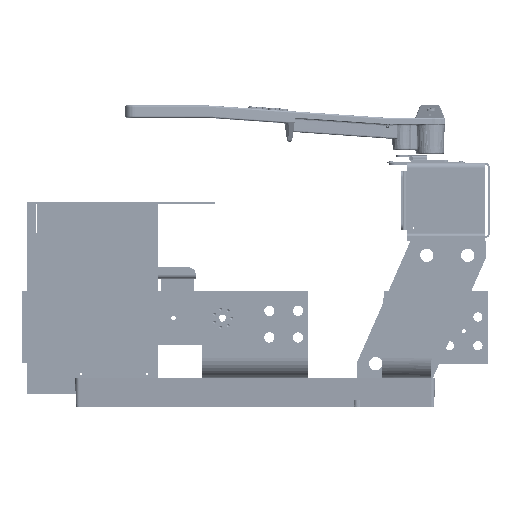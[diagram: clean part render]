
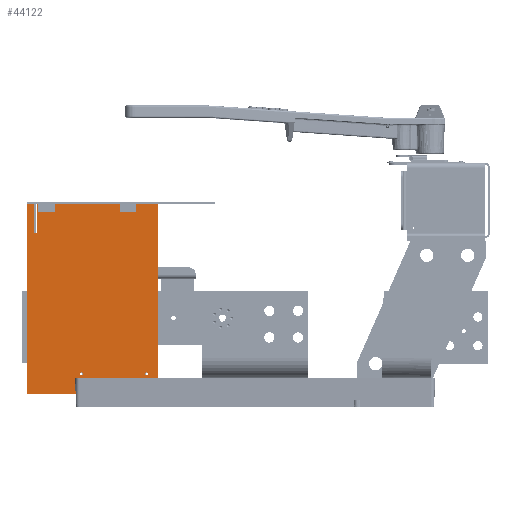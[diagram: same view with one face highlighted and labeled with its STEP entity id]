
A CAD part, left-side view. The second image highlights one B-rep face of the part: STEP entity #44122.
In plain terms, the highlighted planar face has unit normal (-1, 0, 0) as drawn and (0, 0, -1) by its records, which use the part's own axes.
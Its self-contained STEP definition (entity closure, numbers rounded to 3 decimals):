
#2180=FACE_BOUND('',#9753,.T.);
#2181=FACE_BOUND('',#9754,.T.);
#2182=FACE_BOUND('',#9755,.T.);
#2183=FACE_BOUND('',#9756,.T.);
#3931=CIRCLE('',#49044,0.097);
#3933=CIRCLE('',#49047,0.097);
#3935=CIRCLE('',#49050,0.097);
#3937=CIRCLE('',#49053,0.097);
#6780=FACE_OUTER_BOUND('',#9752,.T.);
#9752=EDGE_LOOP('',(#37422,#37423,#37424,#37425,#37426,#37427,#37428,#37429,
#37430,#37431,#37432,#37433));
#9753=EDGE_LOOP('',(#37434));
#9754=EDGE_LOOP('',(#37435));
#9755=EDGE_LOOP('',(#37436));
#9756=EDGE_LOOP('',(#37437));
#13272=LINE('',#72893,#16989);
#13276=LINE('',#72901,#16993);
#13279=LINE('',#72907,#16996);
#13282=LINE('',#72913,#16999);
#13285=LINE('',#72919,#17002);
#13288=LINE('',#72925,#17005);
#13291=LINE('',#72931,#17008);
#13294=LINE('',#72937,#17011);
#13297=LINE('',#72943,#17014);
#13300=LINE('',#72949,#17017);
#13303=LINE('',#72955,#17020);
#13306=LINE('',#72960,#17023);
#16989=VECTOR('',#59800,0.394);
#16993=VECTOR('',#59806,0.394);
#16996=VECTOR('',#59811,0.394);
#16999=VECTOR('',#59816,0.394);
#17002=VECTOR('',#59821,0.394);
#17005=VECTOR('',#59826,0.394);
#17008=VECTOR('',#59831,0.394);
#17011=VECTOR('',#59836,0.394);
#17014=VECTOR('',#59841,0.394);
#17017=VECTOR('',#59846,0.394);
#17020=VECTOR('',#59851,0.394);
#17023=VECTOR('',#59856,0.394);
#20937=VERTEX_POINT('',#72867);
#20939=VERTEX_POINT('',#72873);
#20941=VERTEX_POINT('',#72879);
#20943=VERTEX_POINT('',#72885);
#20945=VERTEX_POINT('',#72891);
#20946=VERTEX_POINT('',#72892);
#20949=VERTEX_POINT('',#72900);
#20951=VERTEX_POINT('',#72906);
#20953=VERTEX_POINT('',#72912);
#20955=VERTEX_POINT('',#72918);
#20957=VERTEX_POINT('',#72924);
#20959=VERTEX_POINT('',#72930);
#20961=VERTEX_POINT('',#72936);
#20963=VERTEX_POINT('',#72942);
#20965=VERTEX_POINT('',#72948);
#20967=VERTEX_POINT('',#72954);
#26592=EDGE_CURVE('',#20937,#20937,#3931,.T.);
#26595=EDGE_CURVE('',#20939,#20939,#3933,.T.);
#26598=EDGE_CURVE('',#20941,#20941,#3935,.T.);
#26601=EDGE_CURVE('',#20943,#20943,#3937,.T.);
#26604=EDGE_CURVE('',#20945,#20946,#13272,.T.);
#26608=EDGE_CURVE('',#20949,#20945,#13276,.T.);
#26611=EDGE_CURVE('',#20951,#20949,#13279,.T.);
#26614=EDGE_CURVE('',#20953,#20951,#13282,.T.);
#26617=EDGE_CURVE('',#20955,#20953,#13285,.T.);
#26620=EDGE_CURVE('',#20957,#20955,#13288,.T.);
#26623=EDGE_CURVE('',#20959,#20957,#13291,.T.);
#26626=EDGE_CURVE('',#20961,#20959,#13294,.T.);
#26629=EDGE_CURVE('',#20963,#20961,#13297,.T.);
#26632=EDGE_CURVE('',#20965,#20963,#13300,.T.);
#26635=EDGE_CURVE('',#20967,#20965,#13303,.T.);
#26638=EDGE_CURVE('',#20946,#20967,#13306,.T.);
#37422=ORIENTED_EDGE('',*,*,#26638,.F.);
#37423=ORIENTED_EDGE('',*,*,#26604,.F.);
#37424=ORIENTED_EDGE('',*,*,#26608,.F.);
#37425=ORIENTED_EDGE('',*,*,#26611,.F.);
#37426=ORIENTED_EDGE('',*,*,#26614,.F.);
#37427=ORIENTED_EDGE('',*,*,#26617,.F.);
#37428=ORIENTED_EDGE('',*,*,#26620,.F.);
#37429=ORIENTED_EDGE('',*,*,#26623,.F.);
#37430=ORIENTED_EDGE('',*,*,#26626,.F.);
#37431=ORIENTED_EDGE('',*,*,#26629,.F.);
#37432=ORIENTED_EDGE('',*,*,#26632,.F.);
#37433=ORIENTED_EDGE('',*,*,#26635,.F.);
#37434=ORIENTED_EDGE('',*,*,#26592,.T.);
#37435=ORIENTED_EDGE('',*,*,#26595,.T.);
#37436=ORIENTED_EDGE('',*,*,#26598,.T.);
#37437=ORIENTED_EDGE('',*,*,#26601,.T.);
#42087=PLANE('',#49068);
#44122=ADVANCED_FACE('',(#6780,#2180,#2181,#2182,#2183),#42087,.F.);
#49044=AXIS2_PLACEMENT_3D('',#72868,#59772,#59773);
#49047=AXIS2_PLACEMENT_3D('',#72874,#59779,#59780);
#49050=AXIS2_PLACEMENT_3D('',#72880,#59786,#59787);
#49053=AXIS2_PLACEMENT_3D('',#72886,#59793,#59794);
#49068=AXIS2_PLACEMENT_3D('',#72963,#59860,#59861);
#59772=DIRECTION('center_axis',(0.,0.,1.));
#59773=DIRECTION('ref_axis',(-1.,0.,0.));
#59779=DIRECTION('center_axis',(0.,0.,1.));
#59780=DIRECTION('ref_axis',(-1.,0.,0.));
#59786=DIRECTION('center_axis',(0.,0.,1.));
#59787=DIRECTION('ref_axis',(-1.,0.,0.));
#59793=DIRECTION('center_axis',(0.,0.,1.));
#59794=DIRECTION('ref_axis',(-1.,0.,0.));
#59800=DIRECTION('',(1.,0.,0.));
#59806=DIRECTION('',(0.,1.,0.));
#59811=DIRECTION('',(1.,0.,0.));
#59816=DIRECTION('',(0.,-1.,0.));
#59821=DIRECTION('',(-1.,0.,0.));
#59826=DIRECTION('',(0.,-1.,0.));
#59831=DIRECTION('',(1.,0.,0.));
#59836=DIRECTION('',(0.,-1.,0.));
#59841=DIRECTION('',(-1.,0.,0.));
#59846=DIRECTION('',(0.,1.,0.));
#59851=DIRECTION('',(1.,0.,0.));
#59856=DIRECTION('',(0.,-1.,0.));
#59860=DIRECTION('center_axis',(0.,0.,1.));
#59861=DIRECTION('ref_axis',(1.,0.,0.));
#72867=CARTESIAN_POINT('',(0.347,2.,0.));
#72868=CARTESIAN_POINT('Origin',(0.25,2.,0.));
#72873=CARTESIAN_POINT('',(0.347,7.,0.));
#72874=CARTESIAN_POINT('Origin',(0.25,7.,0.));
#72879=CARTESIAN_POINT('',(10.472,0.688,0.));
#72880=CARTESIAN_POINT('Origin',(10.375,0.688,0.));
#72885=CARTESIAN_POINT('',(10.472,4.688,0.));
#72886=CARTESIAN_POINT('Origin',(10.375,4.688,0.));
#72891=CARTESIAN_POINT('',(10.625,5.094,0.));
#72892=CARTESIAN_POINT('',(11.156,5.094,0.));
#72893=CARTESIAN_POINT('',(10.625,5.094,0.));
#72900=CARTESIAN_POINT('',(10.625,0.,0.));
#72901=CARTESIAN_POINT('',(10.625,0.,0.));
#72906=CARTESIAN_POINT('',(0.,0.,0.));
#72907=CARTESIAN_POINT('',(0.,0.,0.));
#72912=CARTESIAN_POINT('',(0.,7.422,0.));
#72913=CARTESIAN_POINT('',(0.,7.422,0.));
#72918=CARTESIAN_POINT('',(1.75,7.422,0.));
#72919=CARTESIAN_POINT('',(1.75,7.422,0.));
#72924=CARTESIAN_POINT('',(1.75,7.578,0.));
#72925=CARTESIAN_POINT('',(1.75,7.578,0.));
#72930=CARTESIAN_POINT('',(0.,7.578,0.));
#72931=CARTESIAN_POINT('',(0.,7.578,0.));
#72936=CARTESIAN_POINT('',(0.,8.,0.));
#72937=CARTESIAN_POINT('',(0.,8.,0.));
#72942=CARTESIAN_POINT('',(11.625,8.,0.));
#72943=CARTESIAN_POINT('',(11.625,8.,0.));
#72948=CARTESIAN_POINT('',(11.625,4.719,0.));
#72949=CARTESIAN_POINT('',(11.625,4.719,0.));
#72954=CARTESIAN_POINT('',(11.156,4.719,0.));
#72955=CARTESIAN_POINT('',(11.156,4.719,0.));
#72960=CARTESIAN_POINT('',(11.156,5.094,0.));
#72963=CARTESIAN_POINT('Origin',(5.401,4.41,0.));
